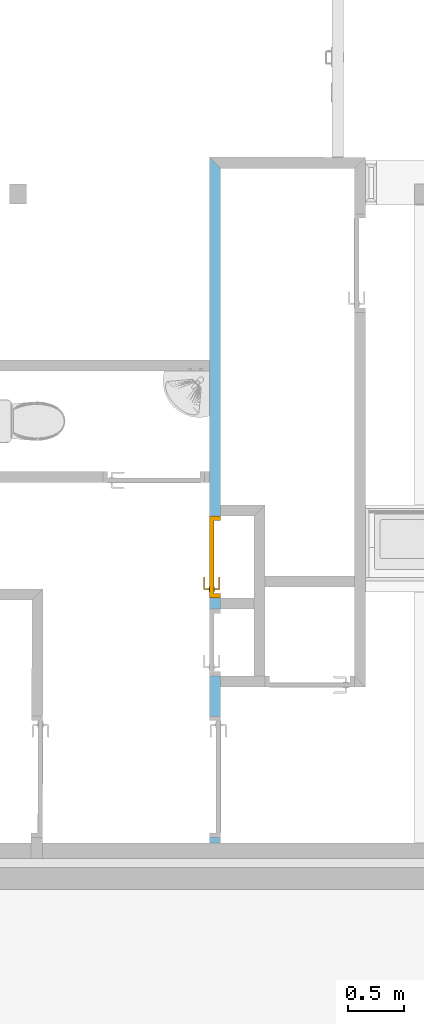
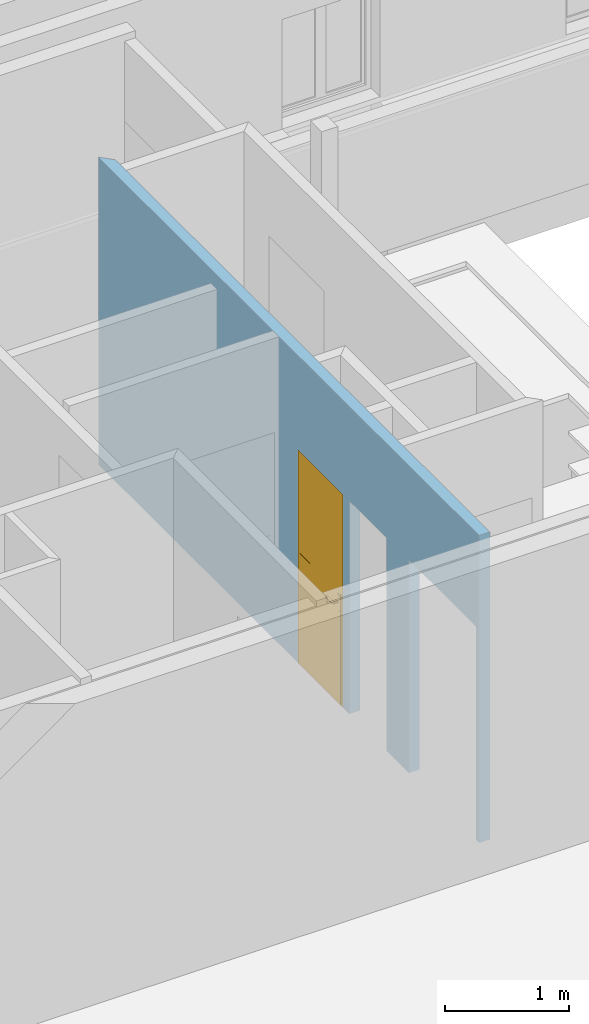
# One storey, part 21 of 34: 1 door, 3 openings, plus 1 element that does not belong to this part.
"""IFC2X3 building model written with IfcOpenShell, lengths in metres."""

import ifcopenshell
import ifcopenshell.guid

model = None  # the IFC model being written
_history = None  # IfcOwnerHistory: only IFC2X3 demands one
_inside = {}  # id of a spatial element -> (the spatial element, [elements in it])
_under = {}  # id of a project, library or spatial element -> (it, [spatial elements below it])
_declared = {}  # id of a project -> (the project, [libraries it declares])
_typed = {}  # id of a type object -> (the type object, [elements of that type])
_made_of = {}  # id of a material, layer set ... -> (it, [elements and type objects made of it])


def new_model(schema):
    """Start an empty IFC model of exactly this schema.

    Asked for "IFC4X3", IfcOpenShell would pick the latest addendum, in which some entities
    have other attributes; the version numbers below select the first issue.
    IFC2X3 requires an IfcOwnerHistory on every rooted entity: one is made here for all.
    """
    global model, _history
    if schema == "IFC4X3":
        model = ifcopenshell.file(schema_version=(4, 3, 0, 0))
    else:
        model = ifcopenshell.file(schema=schema)
    _inside.clear()
    _under.clear()
    _declared.clear()
    _typed.clear()
    _made_of.clear()
    _history = None
    if model.schema == "IFC2X3":
        org = make("IfcOrganization", Name="unknown")
        user = make(
            "IfcPersonAndOrganization",
            ThePerson=make("IfcPerson", FamilyName="unknown"),
            TheOrganization=org,
        )
        app = make(
            "IfcApplication",
            ApplicationDeveloper=org,
            Version="unknown",
            ApplicationFullName="unknown",
            ApplicationIdentifier="unknown",
        )
        _history = make(
            "IfcOwnerHistory",
            OwningUser=user,
            OwningApplication=app,
            ChangeAction="ADDED",
            CreationDate=0,
        )
    return model


def make(cls, **values):
    """One entity of the class cls with the attributes given. An attribute that is None is left unset."""
    return model.create_entity(
        cls, **{name: value for name, value in values.items() if value is not None}
    )


def entity(cls, *values):
    """Any entity or typed value of the class cls, its attributes in the order of the schema. None: left unset."""
    e = model.create_entity(cls)
    for i, value in enumerate(values):
        if value is not None:
            e[i] = value
    return e


def rooted(cls, **values):
    """An entity with a GlobalId (a new one), such as an element, a storey or a relation."""
    return make(cls, GlobalId=ifcopenshell.guid.new(), OwnerHistory=_history, **values)


def si_unit(unit_type, name, prefix=None):
    """IfcSIUnit, for example si_unit("LENGTHUNIT", "METRE", prefix="MILLI")."""
    return make("IfcSIUnit", UnitType=unit_type, Prefix=prefix, Name=name)


def converted_unit(unit_type, name, factor, base, dimensions=None, offset=None):
    """IfcConversionBasedUnit, such as the inch: factor (a typed value) times the base unit."""
    return make(
        "IfcConversionBasedUnit"
        if offset is None
        else "IfcConversionBasedUnitWithOffset",
        ConversionOffset=offset,
        Dimensions=None
        if dimensions is None
        else entity("IfcDimensionalExponents", *dimensions),
        UnitType=unit_type,
        Name=name,
        ConversionFactor=make(
            "IfcMeasureWithUnit", ValueComponent=factor, UnitComponent=base
        ),
    )


def derived_unit(unit_type, elements):
    """IfcDerivedUnit: a product of units, each with its exponent."""
    return make(
        "IfcDerivedUnit",
        Elements=[
            make("IfcDerivedUnitElement", Unit=unit, Exponent=power)
            for unit, power in elements
        ],
        UnitType=unit_type,
    )


def money_unit(currency):
    """IfcMonetaryUnit."""
    return make("IfcMonetaryUnit", Currency=currency)


def assignment(units):
    """IfcUnitAssignment: the units of a project."""
    return None if units is None else make("IfcUnitAssignment", Units=units)


def point(xyz):
    """IfcCartesianPoint."""
    return None if xyz is None else make("IfcCartesianPoint", Coordinates=xyz)


def direction(xyz):
    """IfcDirection."""
    return None if xyz is None else make("IfcDirection", DirectionRatios=xyz)


def frame(location, z_axis=None, x_axis=None):
    """IfcAxis2Placement3D, a coordinate frame: its origin and axes. An axis left out is left unset."""
    return make(
        "IfcAxis2Placement3D",
        Location=point(location),
        Axis=direction(z_axis),
        RefDirection=direction(x_axis),
    )


def frame_2d(location, x_axis=None):
    """IfcAxis2Placement2D, a coordinate frame in the plane: its origin and x axis."""
    return make(
        "IfcAxis2Placement2D", Location=point(location), RefDirection=direction(x_axis)
    )


def origin_with_axes():
    """The frame at (0, 0, 0) with the z axis (0, 0, 1) and the x axis (1, 0, 0) written out."""
    return frame((0.0, 0.0, 0.0), z_axis=(0.0, 0.0, 1.0), x_axis=(1.0, 0.0, 0.0))


def origin_2d_with_axis():
    """The frame at (0, 0) in the plane with the x axis (1, 0) written out."""
    return frame_2d((0.0, 0.0), x_axis=(1.0, 0.0))


def place(relative_to, where):
    """IfcLocalPlacement: puts the frame where relative to a parent placement (None: the world)."""
    return make(
        "IfcLocalPlacement", PlacementRelTo=relative_to, RelativePlacement=where
    )


def context(
    kind, dimensions, precision=None, world=None, true_north=None, identifier=None
):
    """IfcGeometricRepresentationContext, for example the 3D "Model" context."""
    return make(
        "IfcGeometricRepresentationContext",
        ContextIdentifier=identifier,
        ContextType=kind,
        CoordinateSpaceDimension=dimensions,
        Precision=precision,
        WorldCoordinateSystem=world,
        TrueNorth=true_north,
    )


def subcontext(parent, identifier, kind, view, scale=None):
    """IfcGeometricRepresentationSubContext, for example "Body" below "Model"."""
    return make(
        "IfcGeometricRepresentationSubContext",
        ContextIdentifier=identifier,
        ContextType=kind,
        ParentContext=parent,
        TargetScale=scale,
        TargetView=view,
    )


def project(units=None, contexts=None):
    """IfcProject with its units and contexts."""
    return rooted(
        "IfcProject",
        Name="project",
        RepresentationContexts=contexts,
        UnitsInContext=assignment(units),
    )


def spatial(cls, under=None, at=None, **own):
    """A site, building, storey or space (cls), placed at a placement, below another one or the project."""
    s = rooted(cls, ObjectPlacement=at, **own)
    if under is not None:
        _under.setdefault(under.id(), (under, []))[1].append(s)
    return s


def polyline(points):
    """IfcPolyline through the points."""
    return make("IfcPolyline", Points=[point(p) for p in points])


def profile(cls, at=None, kind="AREA", **sizes):
    """A parametric profile (cls). Its sizes go by their IFC names, for example OverallWidth=200.0."""
    return make(cls, ProfileType=kind, Position=at, **sizes)


def rectangle(**sizes):
    """IfcRectangleProfileDef."""
    return profile("IfcRectangleProfileDef", **sizes)


def outline(outer, holes=None, kind="AREA"):
    """IfcArbitraryClosedProfileDef: a profile drawn as a closed curve; with holes, ...WithVoids."""
    if holes is None:
        return make("IfcArbitraryClosedProfileDef", ProfileType=kind, OuterCurve=outer)
    return make(
        "IfcArbitraryProfileDefWithVoids",
        ProfileType=kind,
        OuterCurve=outer,
        InnerCurves=holes,
    )


def extrude(swept, where, along, depth):
    """IfcExtrudedAreaSolid: the profile swept, set in the frame where, extruded along a direction by depth."""
    return make(
        "IfcExtrudedAreaSolid",
        SweptArea=swept,
        Position=where,
        ExtrudedDirection=direction(along),
        Depth=depth,
    )


def faces_of(points, faces, orient=None, outer=None):
    """IfcFace entities. A face is a list of loops; a loop is a list of indices into points, from 0.

    orient and outer hold one flag for each loop. By default every Orientation is true, the
    first loop of a face is its IfcFaceOuterBound and the others are IfcFaceBound.
    """
    made = []
    for i, loops in enumerate(faces):
        bounds = []
        for j, loop in enumerate(loops):
            is_outer = j == 0 if outer is None else outer[i][j]
            bounds.append(
                make(
                    "IfcFaceOuterBound" if is_outer else "IfcFaceBound",
                    Bound=make("IfcPolyLoop", Polygon=[points[k] for k in loop]),
                    Orientation=True if orient is None else orient[i][j],
                )
            )
        made.append(make("IfcFace", Bounds=bounds))
    return made


def faceted_brep(points, faces, orient=None, outer=None, voids=None):
    """IfcFacetedBrep: a solid bounded by flat faces; with voids (closed shells), ...WithVoids."""
    shared = [point(p) for p in points]
    hull = make("IfcClosedShell", CfsFaces=faces_of(shared, faces, orient, outer))
    if voids is None:
        return make("IfcFacetedBrep", Outer=hull)
    return make(
        "IfcFacetedBrepWithVoids",
        Outer=hull,
        Voids=[
            make(cls, CfsFaces=faces_of(shared, fs, o, b)) for cls, fs, o, b in voids
        ],
    )


def shape(context_of_items, identifier, shape_type, items):
    """IfcShapeRepresentation: the items that make up one representation, for example the "Body"."""
    return make(
        "IfcShapeRepresentation",
        ContextOfItems=context_of_items,
        RepresentationIdentifier=identifier,
        RepresentationType=shape_type,
        Items=items,
    )


def material(Name=None, Category=None):
    """IfcMaterial."""
    return make("IfcMaterial", Name=Name, Category=Category)


def layer(
    of_material, thickness, ventilated=None, Name=None, Category=None, Priority=None
):
    """IfcMaterialLayer: one layer of a wall or slab, of a material (None: an air gap)."""
    return make(
        "IfcMaterialLayer",
        Material=of_material,
        LayerThickness=thickness,
        IsVentilated=ventilated,
        Name=Name,
        Category=Category,
        Priority=Priority,
    )


def layer_set(layers, Name=None):
    """IfcMaterialLayerSet."""
    return make("IfcMaterialLayerSet", MaterialLayers=layers, LayerSetName=Name)


def layer_usage(for_layer_set, set_direction, sense, offset, extent=None):
    """IfcMaterialLayerSetUsage: how a layer set lies in its element."""
    return make(
        "IfcMaterialLayerSetUsage",
        ForLayerSet=for_layer_set,
        LayerSetDirection=set_direction,
        DirectionSense=sense,
        OffsetFromReferenceLine=offset,
        ReferenceExtent=extent,
    )


def made_of(thing, what):
    """Note that an element or type object is made of a material, layer set ...; save() writes the relation."""
    if what is not None:
        _made_of.setdefault(what.id(), (what, []))[1].append(thing)
    return thing


def type_object(cls, material=None, **own):
    """A type object (cls), such as IfcWallType, which elements share."""
    return made_of(rooted(cls, **own), material)


def element(
    cls,
    number,
    at=None,
    inside=None,
    cuts=None,
    type_object=None,
    material=None,
    context=None,
    identifier="Body",
    shape_type=None,
    held_by="IfcProductDefinitionShape",
    body=None,
    shapes=None,
    **own,
):
    """One element of the class cls, such as IfcWall. Its Tag is "e" and its number.

    at: its placement. inside: the storey or other place that contains it. cuts: it is an
    opening in that element (IfcRelVoidsElement). A single representation is given by context,
    identifier, shape_type and body (its items); several are given by shapes. held_by: the class
    of the entity that holds the representations. save() writes the other relations.
    """
    e = rooted(cls, Tag="e%d" % number, ObjectPlacement=at, **own)
    if body is not None:
        shapes = [shape(context, identifier, shape_type, body)]
    if shapes is not None:
        e.Representation = make(held_by, Representations=shapes)
    if inside is not None:
        _inside.setdefault(inside.id(), (inside, []))[1].append(e)
    if cuts is not None:
        rooted(
            "IfcRelVoidsElement", RelatingBuildingElement=cuts, RelatedOpeningElement=e
        )
    if type_object is not None:
        _typed.setdefault(type_object.id(), (type_object, []))[1].append(e)
    return made_of(e, material)


def fill(opening, filler):
    """IfcRelFillsElement: the door or window that sits in an opening."""
    return rooted(
        "IfcRelFillsElement",
        RelatingOpeningElement=opening,
        RelatedBuildingElement=filler,
    )


def aggregate(whole, parts):
    """IfcRelAggregates: a whole, such as a stair, and the parts it consists of."""
    return rooted("IfcRelAggregates", RelatingObject=whole, RelatedObjects=parts)


def save(model, path):
    """Write the relations noted so far, then the file.

    IfcRelAggregates (storeys below a building ...), IfcRelContainedInSpatialStructure (elements
    in a storey), IfcRelDefinesByType, IfcRelAssociatesMaterial and IfcRelDeclares: one each for
    every whole, place, type object, material and project.
    """
    for whole, parts in _under.values():
        aggregate(whole, parts)
    for where, things in _inside.values():
        rooted(
            "IfcRelContainedInSpatialStructure",
            RelatedElements=things,
            RelatingStructure=where,
        )
    for kind, things in _typed.values():
        rooted("IfcRelDefinesByType", RelatedObjects=things, RelatingType=kind)
    for what, things in _made_of.values():
        rooted("IfcRelAssociatesMaterial", RelatedObjects=things, RelatingMaterial=what)
    for by, libraries in _declared.values():
        rooted("IfcRelDeclares", RelatingContext=by, RelatedDefinitions=libraries)
    model.write(path)


model = new_model("IFC2X3")

# Units and contexts
model_context = context("Model", 3, precision=1e-05, world=origin_with_axes(), true_north=direction((0.0, 1.0)))
body_context = subcontext(model_context, "Body", "Model", "MODEL_VIEW")
ifc_project = project(units=[si_unit("LENGTHUNIT", "METRE"), si_unit("AREAUNIT", "SQUARE_METRE"), si_unit("VOLUMEUNIT", "CUBIC_METRE"), converted_unit("PLANEANGLEUNIT", "DEGREE", entity("IfcPlaneAngleMeasure", 0.0174532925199), si_unit("PLANEANGLEUNIT", "RADIAN"), dimensions=[0, 0, 0, 0, 0, 0, 0]), money_unit("CHF"), converted_unit("TIMEUNIT", "Year", entity("IfcTimeMeasure", 31556926.0), si_unit("TIMEUNIT", "SECOND"), dimensions=[0, 0, 1, 0, 0, 0, 0]), si_unit("MASSUNIT", "GRAM", prefix="KILO"), si_unit("THERMODYNAMICTEMPERATUREUNIT", "DEGREE_CELSIUS"), si_unit("LUMINOUSINTENSITYUNIT", "LUMEN"), si_unit("ENERGYUNIT", "JOULE", prefix="MEGA"), derived_unit("THERMALCONDUCTANCEUNIT", [(si_unit("POWERUNIT", "WATT"), 1), (si_unit("LENGTHUNIT", "METRE"), -1), (si_unit("THERMODYNAMICTEMPERATUREUNIT", "KELVIN"), -1)]), derived_unit("SPECIFICHEATCAPACITYUNIT", [(si_unit("ENERGYUNIT", "JOULE"), 1), (si_unit("MASSUNIT", "GRAM", prefix="KILO"), -1), (si_unit("THERMODYNAMICTEMPERATUREUNIT", "KELVIN"), -1)]), derived_unit("MASSDENSITYUNIT", [(si_unit("MASSUNIT", "GRAM", prefix="KILO"), 1), (si_unit("VOLUMEUNIT", "CUBIC_METRE"), -1)])], contexts=[model_context])

# Site, building, storey
site_placement = place(None, origin_with_axes())
site = spatial("IfcSite", under=ifc_project, at=site_placement, Name="Site", CompositionType="ELEMENT")
building_placement = place(site_placement, origin_with_axes())
building = spatial("IfcBuilding", under=site, at=building_placement, Name="Bâtiment", CompositionType="ELEMENT")
storey_placement = place(building_placement, origin_with_axes())
storey = spatial("IfcBuildingStorey", under=building, at=storey_placement, Name="RDC", CompositionType="ELEMENT", Elevation=-5.32907e-15)

# Wall, openings, door
ifc_material_1 = material(Name="Plâtre lissé 291446788")
ifc_layer_1 = layer(ifc_material_1, 0.015, ventilated="UNKNOWN")
ifc_material_2 = material(Name="Isolation laine de pierre 307970822")
ifc_layer_2 = layer(ifc_material_2, 0.07, ventilated="UNKNOWN")
ifc_layer_3 = layer(ifc_material_1, 0.015, ventilated="UNKNOWN")
ifc_layer_set = layer_set([ifc_layer_1, ifc_layer_2, ifc_layer_3], Name="CLOISON 10 ROUGE")
ifc_layer_usage = layer_usage(ifc_layer_set, "AXIS2", "POSITIVE", 0.0)
wall_type = type_object("IfcWallType", Name="CLOISON 10 ROUGE 100", PredefinedType="NOTDEFINED")
wall_placement = place(storey_placement, frame((1673.19089582, 182.47004191, 0.47), z_axis=(0.0, 0.0, 1.0), x_axis=(0.0, 1.0, 0.0)))
wall = element("IfcWallStandardCase", 1, at=wall_placement, inside=storey, type_object=wall_type, material=ifc_layer_usage, Name="Mur-010", context=body_context, shape_type="SweptSolid", body=[
    extrude(outline(polyline([(0.0, 0.0), (6.05103281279, 0.0), (6.15112675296, 0.1), (0.0, 0.1), (0.0, 0.0)])), origin_with_axes(), (0.0, 0.0, 1.0), 3.03000008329),
])
opening_1_placement = place(wall_placement, frame((0.592679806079, 0.0, 0.0), z_axis=(0.0, 0.0, 1.0), x_axis=(1.0, 0.0, 0.0)))
element("IfcOpeningElement", 2, at=opening_1_placement, cuts=wall, Name="Por-004", context=body_context, shape_type="SweptSolid", body=[
    extrude(rectangle(XDim=1.086, YDim=2.1, at=origin_2d_with_axis()), frame((0.0, 0.1, 1.05), z_axis=(0.0, -1.0, 0.0), x_axis=(-1.0, 0.0, 0.0)), (0.0, 0.0, 1.0), 0.3),
])
opening_2_placement = place(wall_placement, frame((1.796, 0.0, 0.0), z_axis=(0.0, 0.0, 1.0), x_axis=(1.0, 0.0, 0.0)))
element("IfcOpeningElement", 3, at=opening_2_placement, cuts=wall, Name="Por-006", context=body_context, shape_type="SweptSolid", body=[
    extrude(rectangle(XDim=0.6, YDim=2.1, at=origin_2d_with_axis()), frame((0.0, 0.1, 1.05), z_axis=(0.0, -1.0, 0.0), x_axis=(1.0, 0.0, 0.0)), (0.0, 0.0, 1.0), 0.3),
])
opening_3_placement = place(wall_placement, frame((2.56298368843, 0.0, 0.0), z_axis=(0.0, 0.0, 1.0), x_axis=(1.0, 0.0, 0.0)))
opening_3 = element("IfcOpeningElement", 4, at=opening_3_placement, cuts=wall, Name="Por-006", context=body_context, shape_type="SweptSolid", body=[
    extrude(rectangle(XDim=0.733967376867, YDim=2.1, at=origin_2d_with_axis()), frame((0.0, 0.1, 1.05), z_axis=(0.0, -1.0, 0.0), x_axis=(1.0, 0.0, 0.0)), (0.0, 0.0, 1.0), 0.3),
])
door_style = type_object("IfcDoorStyle", Name="Porte 25", ConstructionType="NOTDEFINED", OperationType="SINGLE_SWING_RIGHT", ParameterTakesPrecedence=False, Sizeable=False)
door_placement = place(opening_3_placement, frame((-0.338983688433, 0.0, 0.0), z_axis=(0.0, 0.0, 1.0), x_axis=(1.0, 0.0, 0.0)))
door = element("IfcDoor", 5, at=door_placement, inside=storey, type_object=door_style, Name="Por-006", OverallHeight=2.1, OverallWidth=0.733967, context=body_context, shape_type="Brep", body=[
    faceted_brep([(0.012, 0.06, 0.0), (0.012, 0.06, 2.06), (0.012, 0.0, 2.06), (0.012, 0.0, 0.0), (0.0, 0.06, 2.06), (0.0, 0.06, 0.0), (0.0, 0.1, 2.06), (-0.028, 0.1, 2.06), (-0.028, 0.0, 2.06), (-0.028, 0.0, 0.0), (-0.028, 0.1, 0.0), (0.0, 0.1, 0.0)], [[[0, 1, 2, 3]], [[4, 1, 0, 5]], [[4, 6, 7, 8, 2, 1]], [[3, 2, 8, 9]], [[5, 0, 3, 9, 10, 11]], [[6, 4, 5, 11]], [[6, 11, 10, 7]], [[10, 9, 8, 7]]]),
    faceted_brep([(0.677967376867, 0.06, 2.06), (0.665967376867, 0.06, 2.06), (0.665967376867, 0.0, 2.06), (0.705967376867, 0.0, 2.06), (0.705967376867, 0.1, 2.06), (0.677967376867, 0.1, 2.06), (0.677967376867, 0.06, 0.0), (0.665967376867, 0.06, 0.0), (0.665967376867, 0.0, 0.0), (0.705967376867, 0.0, 0.0), (0.705967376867, 0.1, 0.0), (0.677967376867, 0.1, 0.0)], [[[0, 1, 2, 3, 4, 5]], [[1, 0, 6, 7]], [[1, 7, 8, 2]], [[3, 2, 8, 9]], [[4, 3, 9, 10]], [[11, 5, 4, 10]], [[0, 5, 11, 6]], [[6, 11, 10, 9, 8, 7]]]),
    faceted_brep([(0.0, 0.1, 2.072), (0.0, 0.1, 2.06), (-0.028, 0.1, 2.06), (-0.028, 0.1, 2.1), (0.705967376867, 0.1, 2.1), (0.705967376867, 0.1, 2.06), (0.677967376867, 0.1, 2.06), (0.677967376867, 0.1, 2.072), (0.0, 0.06, 2.072), (0.0, 0.06, 2.06), (0.012, 0.06, 2.06), (0.012, 0.0, 2.06), (-0.028, 0.0, 2.06), (-0.028, 0.0, 2.1), (0.705967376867, 0.0, 2.1), (0.705967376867, 0.0, 2.06), (0.677967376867, 0.06, 2.06), (0.665967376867, 0.0, 2.06), (0.665967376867, 0.06, 2.06), (0.677967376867, 0.06, 2.072)], [[[0, 1, 2, 3, 4, 5, 6, 7]], [[1, 0, 8, 9]], [[9, 10, 11, 12, 2, 1]], [[2, 12, 13, 3]], [[3, 13, 14, 4]], [[4, 14, 15, 5]], [[16, 6, 5, 15, 17, 18]], [[7, 6, 16, 19]], [[0, 7, 19, 8]], [[16, 18, 10, 9, 8, 19]], [[10, 18, 17, 11]], [[17, 15, 14, 13, 12, 11]]]),
    faceted_brep([(0.025, 0.06, 0.93), (0.0269030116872, 0.06, 0.920432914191), (0.0269030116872, 0.055, 0.920432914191), (0.025, 0.055, 0.93), (0.025, 0.06, 1.055), (0.0269030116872, 0.06, 1.06456708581), (0.0323223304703, 0.06, 1.07267766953), (0.0404329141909, 0.06, 1.07809698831), (0.05, 0.06, 1.08), (0.0595670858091, 0.06, 1.07809698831), (0.0676776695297, 0.06, 1.07267766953), (0.0730969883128, 0.06, 1.06456708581), (0.075, 0.06, 1.055), (0.075, 0.06, 0.93), (0.0730969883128, 0.06, 0.920432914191), (0.0676776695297, 0.06, 0.91232233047), (0.0595670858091, 0.06, 0.906903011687), (0.05, 0.06, 0.905), (0.0404329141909, 0.06, 0.906903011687), (0.0323223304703, 0.06, 0.91232233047), (0.0323223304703, 0.055, 0.91232233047), (0.0404329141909, 0.055, 0.906903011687), (0.05, 0.055, 0.905), (0.0595670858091, 0.055, 0.906903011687), (0.0676776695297, 0.055, 0.91232233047), (0.0730969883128, 0.055, 0.920432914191), (0.075, 0.055, 0.93), (0.075, 0.055, 1.055), (0.0730969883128, 0.055, 1.06456708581), (0.0676776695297, 0.055, 1.07267766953), (0.0595670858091, 0.055, 1.07809698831), (0.05, 0.055, 1.08), (0.0404329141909, 0.055, 1.07809698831), (0.0323223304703, 0.055, 1.07267766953), (0.0269030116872, 0.055, 1.06456708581), (0.025, 0.055, 1.055)], [[[0, 1, 2, 3]], [[0, 4, 5, 6, 7, 8, 9, 10, 11, 12, 13, 14, 15, 16, 17, 18, 19, 1]], [[1, 19, 20, 2]], [[3, 2, 20, 21, 22, 23, 24, 25, 26, 27, 28, 29, 30, 31, 32, 33, 34, 35]], [[4, 0, 3, 35]], [[5, 4, 35, 34]], [[6, 5, 34, 33]], [[7, 6, 33, 32]], [[8, 7, 32, 31]], [[9, 8, 31, 30]], [[10, 9, 30, 29]], [[11, 10, 29, 28]], [[12, 11, 28, 27]], [[13, 12, 27, 26]], [[14, 13, 26, 25]], [[15, 14, 25, 24]], [[16, 15, 24, 23]], [[17, 16, 23, 22]], [[18, 17, 22, 21]], [[19, 18, 21, 20]]]),
    faceted_brep([(0.0575, 0.055, 1.005), (0.0575, 0.025, 1.005), (0.0575, 0.025, 0.995), (0.0575, 0.055, 0.995), (0.0425, 0.055, 1.005), (0.0425, 0.018, 1.005), (0.0434895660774, 0.0130251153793, 1.005), (0.0463076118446, 0.00880761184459, 1.005), (0.0505251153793, 0.0059895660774, 1.005), (0.0555, 0.005, 1.005), (0.1625, 0.005, 1.005), (0.1625, 0.00700000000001, 1.005), (0.161510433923, 0.0119748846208, 1.005), (0.158692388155, 0.0161923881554, 1.005), (0.154474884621, 0.0190104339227, 1.005), (0.1495, 0.02, 1.005), (0.0625, 0.02, 1.005), (0.0605865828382, 0.0203806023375, 1.005), (0.0589644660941, 0.0214644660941, 1.005), (0.0578806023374, 0.0230865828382, 1.005), (0.0578806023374, 0.0230865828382, 0.995), (0.0589644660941, 0.0214644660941, 0.995), (0.0605865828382, 0.0203806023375, 0.995), (0.0625, 0.02, 0.995), (0.1495, 0.02, 0.995), (0.154474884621, 0.0190104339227, 0.995), (0.158692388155, 0.0161923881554, 0.995), (0.161510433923, 0.0119748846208, 0.995), (0.1625, 0.00700000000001, 0.995), (0.1625, 0.005, 0.995), (0.0555, 0.005, 0.995), (0.0505251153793, 0.0059895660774, 0.995), (0.0463076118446, 0.00880761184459, 0.995), (0.0434895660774, 0.0130251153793, 0.995), (0.0425, 0.018, 0.995), (0.0425, 0.055, 0.995)], [[[0, 1, 2, 3]], [[0, 4, 5, 6, 7, 8, 9, 10, 11, 12, 13, 14, 15, 16, 17, 18, 19, 1]], [[1, 19, 20, 2]], [[3, 2, 20, 21, 22, 23, 24, 25, 26, 27, 28, 29, 30, 31, 32, 33, 34, 35]], [[4, 0, 3, 35]], [[5, 4, 35, 34]], [[6, 5, 34, 33]], [[7, 6, 33, 32]], [[8, 7, 32, 31]], [[9, 8, 31, 30]], [[10, 9, 30, 29]], [[11, 10, 29, 28]], [[12, 11, 28, 27]], [[13, 12, 27, 26]], [[14, 13, 26, 25]], [[15, 14, 25, 24]], [[16, 15, 24, 23]], [[17, 16, 23, 22]], [[18, 17, 22, 21]], [[19, 18, 21, 20]]]),
    faceted_brep([(0.025, 0.1, 0.93), (0.025, 0.105, 0.93), (0.0269030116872, 0.105, 0.920432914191), (0.0269030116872, 0.1, 0.920432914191), (0.025, 0.1, 1.055), (0.025, 0.105, 1.055), (0.0269030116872, 0.105, 1.06456708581), (0.0323223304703, 0.105, 1.07267766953), (0.0404329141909, 0.105, 1.07809698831), (0.05, 0.105, 1.08), (0.0595670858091, 0.105, 1.07809698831), (0.0676776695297, 0.105, 1.07267766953), (0.0730969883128, 0.105, 1.06456708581), (0.075, 0.105, 1.055), (0.075, 0.105, 0.93), (0.0730969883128, 0.105, 0.920432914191), (0.0676776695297, 0.105, 0.91232233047), (0.0595670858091, 0.105, 0.906903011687), (0.05, 0.105, 0.905), (0.0404329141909, 0.105, 0.906903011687), (0.0323223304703, 0.105, 0.91232233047), (0.0323223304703, 0.1, 0.91232233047), (0.0404329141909, 0.1, 0.906903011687), (0.05, 0.1, 0.905), (0.0595670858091, 0.1, 0.906903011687), (0.0676776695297, 0.1, 0.91232233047), (0.0730969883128, 0.1, 0.920432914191), (0.075, 0.1, 0.93), (0.075, 0.1, 1.055), (0.0730969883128, 0.1, 1.06456708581), (0.0676776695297, 0.1, 1.07267766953), (0.0595670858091, 0.1, 1.07809698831), (0.05, 0.1, 1.08), (0.0404329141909, 0.1, 1.07809698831), (0.0323223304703, 0.1, 1.07267766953), (0.0269030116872, 0.1, 1.06456708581)], [[[0, 1, 2, 3]], [[4, 5, 1, 0]], [[1, 5, 6, 7, 8, 9, 10, 11, 12, 13, 14, 15, 16, 17, 18, 19, 20, 2]], [[3, 2, 20, 21]], [[0, 3, 21, 22, 23, 24, 25, 26, 27, 28, 29, 30, 31, 32, 33, 34, 35, 4]], [[35, 6, 5, 4]], [[34, 7, 6, 35]], [[33, 8, 7, 34]], [[32, 9, 8, 33]], [[31, 10, 9, 32]], [[30, 11, 10, 31]], [[29, 12, 11, 30]], [[28, 13, 12, 29]], [[27, 14, 13, 28]], [[26, 15, 14, 27]], [[25, 16, 15, 26]], [[24, 17, 16, 25]], [[23, 18, 17, 24]], [[22, 19, 18, 23]], [[21, 20, 19, 22]]]),
    faceted_brep([(0.0575, 0.105, 1.005), (0.0575, 0.105, 0.995), (0.0575, 0.135, 0.995), (0.0575, 0.135, 1.005), (0.0425, 0.105, 1.005), (0.0425, 0.105, 0.995), (0.0425, 0.142, 0.995), (0.0434895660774, 0.146974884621, 0.995), (0.0463076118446, 0.151192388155, 0.995), (0.0505251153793, 0.154010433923, 0.995), (0.0555, 0.155, 0.995), (0.1625, 0.155, 0.995), (0.1625, 0.153, 0.995), (0.161510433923, 0.148025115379, 0.995), (0.158692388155, 0.143807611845, 0.995), (0.154474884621, 0.140989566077, 0.995), (0.1495, 0.14, 0.995), (0.0625, 0.14, 0.995), (0.0605865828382, 0.139619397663, 0.995), (0.0589644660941, 0.138535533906, 0.995), (0.0578806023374, 0.136913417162, 0.995), (0.0578806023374, 0.136913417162, 1.005), (0.0589644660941, 0.138535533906, 1.005), (0.0605865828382, 0.139619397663, 1.005), (0.0625, 0.14, 1.005), (0.1495, 0.14, 1.005), (0.154474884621, 0.140989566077, 1.005), (0.158692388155, 0.143807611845, 1.005), (0.161510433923, 0.148025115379, 1.005), (0.1625, 0.153, 1.005), (0.1625, 0.155, 1.005), (0.0555, 0.155, 1.005), (0.0505251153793, 0.154010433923, 1.005), (0.0463076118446, 0.151192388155, 1.005), (0.0434895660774, 0.146974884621, 1.005), (0.0425, 0.142, 1.005)], [[[0, 1, 2, 3]], [[4, 5, 1, 0]], [[1, 5, 6, 7, 8, 9, 10, 11, 12, 13, 14, 15, 16, 17, 18, 19, 20, 2]], [[3, 2, 20, 21]], [[0, 3, 21, 22, 23, 24, 25, 26, 27, 28, 29, 30, 31, 32, 33, 34, 35, 4]], [[35, 6, 5, 4]], [[34, 7, 6, 35]], [[33, 8, 7, 34]], [[32, 9, 8, 33]], [[31, 10, 9, 32]], [[30, 11, 10, 31]], [[29, 12, 11, 30]], [[28, 13, 12, 29]], [[27, 14, 13, 28]], [[26, 15, 14, 27]], [[25, 16, 15, 26]], [[24, 17, 16, 25]], [[23, 18, 17, 24]], [[22, 19, 18, 23]], [[21, 20, 19, 22]]]),
    faceted_brep([(0.667967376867, 0.058, 0.01), (0.01, 0.058, 0.01), (0.01, 0.06, 0.01), (0.667967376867, 0.06, 0.01), (0.667967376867, 0.058, 1.1), (0.01, 0.058, 1.1), (0.01, 0.06, 1.1), (0.667967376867, 0.06, 1.1)], [[[0, 1, 2, 3]], [[0, 4, 5, 1]], [[1, 5, 6, 2]], [[3, 2, 6, 7]], [[4, 0, 3, 7]], [[5, 4, 7, 6]]]),
    faceted_brep([(0.667967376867, 0.1, 0.01), (0.01, 0.1, 0.01), (0.01, 0.102, 0.01), (0.667967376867, 0.102, 0.01), (0.667967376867, 0.1, 1.1), (0.01, 0.1, 1.1), (0.01, 0.102, 1.1), (0.667967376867, 0.102, 1.1)], [[[0, 1, 2, 3]], [[0, 4, 5, 1]], [[1, 5, 6, 2]], [[3, 2, 6, 7]], [[4, 0, 3, 7]], [[5, 4, 7, 6]]]),
    faceted_brep([(0.677967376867, 0.1, 0.0), (0.677967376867, 0.06, 0.0), (0.0, 0.06, 0.0), (0.0, 0.1, 0.0), (0.677967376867, 0.1, 2.072), (0.677967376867, 0.06, 2.072), (0.0, 0.06, 2.072), (0.0, 0.1, 2.072)], [[[0, 1, 2, 3]], [[4, 5, 1, 0]], [[1, 5, 6, 2]], [[3, 2, 6, 7]], [[0, 3, 7, 4]], [[7, 6, 5, 4]]]),
])
fill(opening_3, door)

save(model, "model.ifc")
